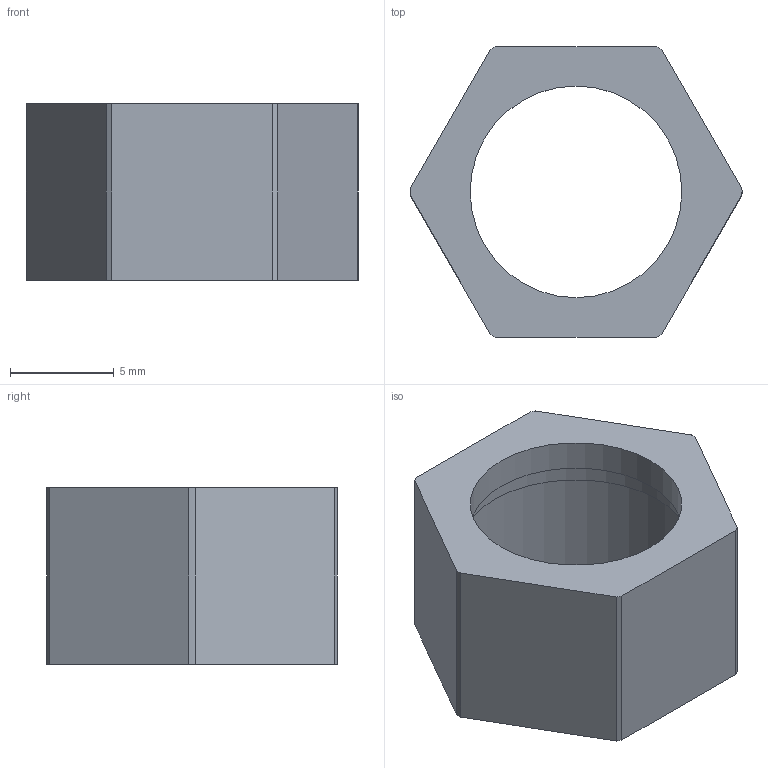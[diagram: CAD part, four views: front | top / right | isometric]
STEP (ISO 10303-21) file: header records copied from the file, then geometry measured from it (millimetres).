
FILE_DESCRIPTION(('Open CASCADE Model'),'2;1');
FILE_NAME('Open CASCADE Shape Model','2026-10-21T12:47:57',('Author'),( 'Open CASCADE'),'Open CASCADE STEP processor 7.9','Open CASCADE 7.9' ,'Unknown');
FILE_SCHEMA(('AUTOMOTIVE_DESIGN { 1 0 10303 214 1 1 1 1 }'));
Length unit declared in the file: millimetre
Products named in the file (1): Open CASCADE STEP translator 7.9 15
Bounding box: 16 x 14 x 8.5 mm (x, y, z)
Volume: 532.8 mm3; surface area: 896.9 mm2
Topology: 1 solids, 1 shells, 19 faces, 45 edges, 30 vertices
Faces by surface type: plane 10, cylinder 9
Full cylindrical faces by diameter (mm): 10.2 x1, 11.1 x1, 12.1 x1
Entity records: 1135 total; most frequent: CARTESIAN_POINT 215, DIRECTION 168, ORIENTED_EDGE 90, PCURVE 90, DEFINITIONAL_REPRESENTATION 90, LINE 75, VECTOR 75, EDGE_CURVE 45
